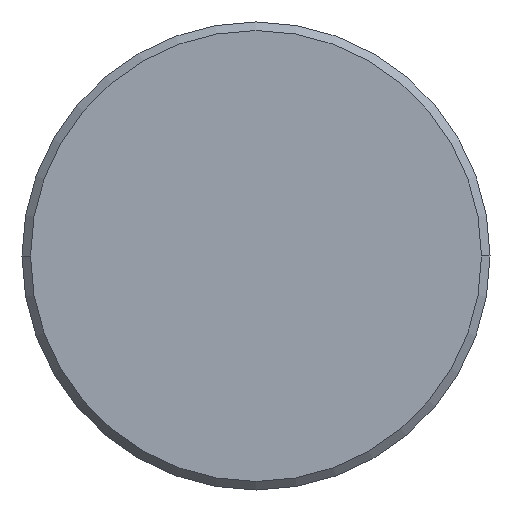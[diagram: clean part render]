
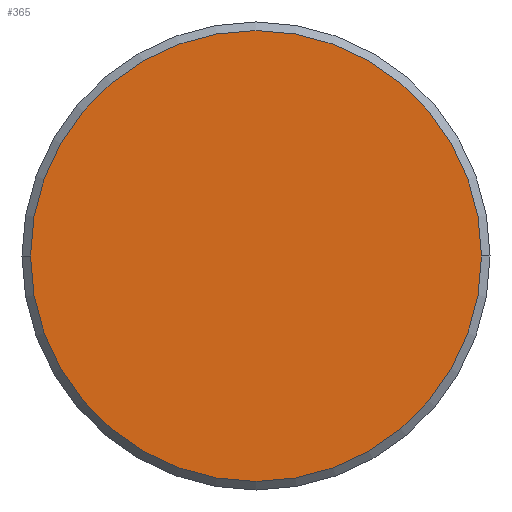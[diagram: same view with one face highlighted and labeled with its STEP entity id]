
A CAD part, left-side view. The second image highlights one B-rep face of the part: STEP entity #365.
In plain terms, the highlighted planar face has unit normal (-1, 0, 0).
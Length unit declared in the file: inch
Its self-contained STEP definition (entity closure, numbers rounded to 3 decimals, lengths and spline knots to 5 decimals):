
#1 = VERTEX_POINT ( 'NONE', #225 ) ;
#2 = CARTESIAN_POINT ( 'NONE',  ( 0., 0., 0. ) ) ;
#15 = AXIS2_PLACEMENT_3D ( 'NONE', #270, #150, #177 ) ;
#46 = EDGE_LOOP ( 'NONE', ( #286, #258 ) ) ;
#78 = PLANE ( 'NONE',  #222 ) ;
#85 = EDGE_CURVE ( 'NONE', #247, #1, #165, .T. ) ;
#87 = CIRCLE ( 'NONE', #15, 0.10537 ) ;
#99 = EDGE_CURVE ( 'NONE', #1, #247, #87, .T. ) ;
#125 = DIRECTION ( 'NONE',  ( 0., -1., 0. ) ) ;
#130 = CARTESIAN_POINT ( 'NONE',  ( 0., -0.10537, 0. ) ) ;
#135 = DIRECTION ( 'NONE',  ( 0., -1., 0. ) ) ;
#150 = DIRECTION ( 'NONE',  ( -1., 0., 0. ) ) ;
#165 = CIRCLE ( 'NONE', #201, 0.10537 ) ;
#177 = DIRECTION ( 'NONE',  ( 0., -1., 0. ) ) ;
#201 = AXIS2_PLACEMENT_3D ( 'NONE', #2, #350, #125 ) ;
#222 = AXIS2_PLACEMENT_3D ( 'NONE', #273, #242, #135 ) ;
#225 = CARTESIAN_POINT ( 'NONE',  ( 0., 0.10537, 0. ) ) ;
#242 = DIRECTION ( 'NONE',  ( -1., 0., 0. ) ) ;
#247 = VERTEX_POINT ( 'NONE', #130 ) ;
#258 = ORIENTED_EDGE ( 'NONE', *, *, #85, .T. ) ;
#270 = CARTESIAN_POINT ( 'NONE',  ( 0., 0., 0. ) ) ;
#273 = CARTESIAN_POINT ( 'NONE',  ( 0., 0., 0. ) ) ;
#286 = ORIENTED_EDGE ( 'NONE', *, *, #99, .T. ) ;
#291 = FACE_OUTER_BOUND ( 'NONE', #46, .T. ) ;
#350 = DIRECTION ( 'NONE',  ( -1., 0., 0. ) ) ;
#365 = ADVANCED_FACE ( 'NONE', ( #291 ), #78, .T. ) ;
